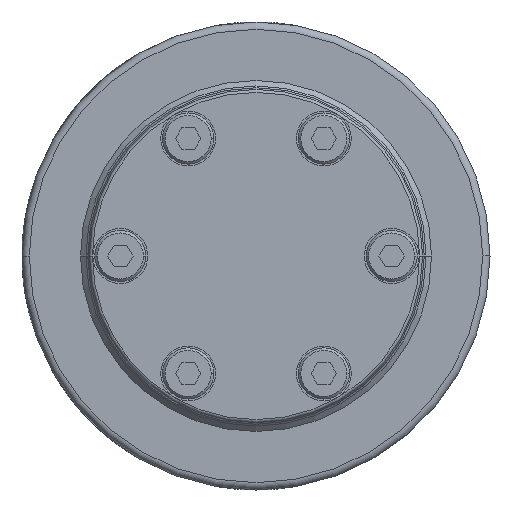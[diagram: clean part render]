
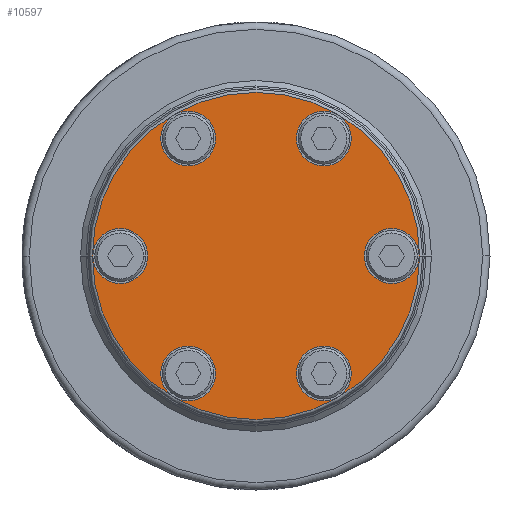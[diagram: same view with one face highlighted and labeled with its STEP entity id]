
A CAD part, left-side view. The second image highlights one B-rep face of the part: STEP entity #10597.
In plain terms, the highlighted planar face has unit normal (-1, 0, 0) as drawn and (0, 1, 0) by its records, which use the part's own axes.
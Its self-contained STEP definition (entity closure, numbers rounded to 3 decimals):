
#9828=CARTESIAN_POINT('',(0.,25.,0.));
#9829=DIRECTION('',(0.,1.,0.));
#9830=DIRECTION('',(1.,0.,0.));
#9831=AXIS2_PLACEMENT_3D('',#9828,#9829,#9830);
#9833=CARTESIAN_POINT('',(0.,25.,0.));
#9834=DIRECTION('',(0.,1.,0.));
#9835=DIRECTION('',(-1.,0.,0.));
#9836=AXIS2_PLACEMENT_3D('',#9833,#9834,#9835);
#9838=CARTESIAN_POINT('',(18.563,25.,0.));
#9839=DIRECTION('',(0.,-1.,0.));
#9840=DIRECTION('',(1.,0.,0.));
#9841=AXIS2_PLACEMENT_3D('',#9838,#9839,#9840);
#9843=CARTESIAN_POINT('',(18.563,25.,0.));
#9844=DIRECTION('',(0.,-1.,0.));
#9845=DIRECTION('',(-1.,0.,0.));
#9846=AXIS2_PLACEMENT_3D('',#9843,#9844,#9845);
#9848=CARTESIAN_POINT('',(9.281,25.,-16.076));
#9849=DIRECTION('',(0.,-1.,0.));
#9850=DIRECTION('',(0.5,0.,-0.866));
#9851=AXIS2_PLACEMENT_3D('',#9848,#9849,#9850);
#9853=CARTESIAN_POINT('',(9.281,25.,-16.076));
#9854=DIRECTION('',(0.,-1.,0.));
#9855=DIRECTION('',(-0.5,0.,0.866));
#9856=AXIS2_PLACEMENT_3D('',#9853,#9854,#9855);
#9858=CARTESIAN_POINT('',(-9.281,25.,-16.076));
#9859=DIRECTION('',(0.,-1.,0.));
#9860=DIRECTION('',(-0.5,0.,-0.866));
#9861=AXIS2_PLACEMENT_3D('',#9858,#9859,#9860);
#9863=CARTESIAN_POINT('',(-9.281,25.,-16.076));
#9864=DIRECTION('',(0.,-1.,0.));
#9865=DIRECTION('',(0.5,0.,0.866));
#9866=AXIS2_PLACEMENT_3D('',#9863,#9864,#9865);
#9868=CARTESIAN_POINT('',(-18.563,25.,0.));
#9869=DIRECTION('',(0.,-1.,0.));
#9870=DIRECTION('',(-1.,0.,0.));
#9871=AXIS2_PLACEMENT_3D('',#9868,#9869,#9870);
#9873=CARTESIAN_POINT('',(-18.563,25.,0.));
#9874=DIRECTION('',(0.,-1.,0.));
#9875=DIRECTION('',(1.,0.,0.));
#9876=AXIS2_PLACEMENT_3D('',#9873,#9874,#9875);
#9878=CARTESIAN_POINT('',(-9.281,25.,16.076));
#9879=DIRECTION('',(0.,-1.,0.));
#9880=DIRECTION('',(-0.5,0.,0.866));
#9881=AXIS2_PLACEMENT_3D('',#9878,#9879,#9880);
#9883=CARTESIAN_POINT('',(-9.281,25.,16.076));
#9884=DIRECTION('',(0.,-1.,0.));
#9885=DIRECTION('',(0.5,0.,-0.866));
#9886=AXIS2_PLACEMENT_3D('',#9883,#9884,#9885);
#9888=CARTESIAN_POINT('',(9.281,25.,16.076));
#9889=DIRECTION('',(0.,-1.,0.));
#9890=DIRECTION('',(0.5,0.,0.866));
#9891=AXIS2_PLACEMENT_3D('',#9888,#9889,#9890);
#9893=CARTESIAN_POINT('',(9.281,25.,16.076));
#9894=DIRECTION('',(0.,-1.,0.));
#9895=DIRECTION('',(-0.5,0.,-0.866));
#9896=AXIS2_PLACEMENT_3D('',#9893,#9894,#9895);
#10169=CARTESIAN_POINT('',(22.375,25.,0.));
#10170=CARTESIAN_POINT('',(-22.375,25.,0.));
#10171=VERTEX_POINT('',#10169);
#10172=VERTEX_POINT('',#10170);
#10185=CARTESIAN_POINT('',(22.313,25.,0.));
#10186=CARTESIAN_POINT('',(14.813,25.,0.));
#10187=VERTEX_POINT('',#10185);
#10188=VERTEX_POINT('',#10186);
#10197=CARTESIAN_POINT('',(11.156,25.,-19.323));
#10198=VERTEX_POINT('',#10197);
#10199=CARTESIAN_POINT('',(7.406,25.,-12.828));
#10200=VERTEX_POINT('',#10199);
#10205=CARTESIAN_POINT('',(-11.156,25.,-19.323));
#10206=VERTEX_POINT('',#10205);
#10207=CARTESIAN_POINT('',(-7.406,25.,-12.828));
#10208=VERTEX_POINT('',#10207);
#10213=CARTESIAN_POINT('',(-22.313,25.,0.));
#10214=VERTEX_POINT('',#10213);
#10215=CARTESIAN_POINT('',(-14.813,25.,0.));
#10216=VERTEX_POINT('',#10215);
#10221=CARTESIAN_POINT('',(-11.156,25.,19.323));
#10222=VERTEX_POINT('',#10221);
#10223=CARTESIAN_POINT('',(-7.406,25.,12.828));
#10224=VERTEX_POINT('',#10223);
#10229=CARTESIAN_POINT('',(11.156,25.,19.323));
#10230=VERTEX_POINT('',#10229);
#10231=CARTESIAN_POINT('',(7.406,25.,12.828));
#10232=VERTEX_POINT('',#10231);
#10551=CARTESIAN_POINT('',(0.,25.,0.));
#10552=DIRECTION('',(0.,1.,0.));
#10553=DIRECTION('',(1.,0.,0.));
#10554=AXIS2_PLACEMENT_3D('',#10551,#10552,#10553);
#10555=PLANE('',#10554);
#10556=ORIENTED_EDGE('',*,*,#10541,.F.);
#10558=ORIENTED_EDGE('',*,*,#10557,.F.);
#10559=EDGE_LOOP('',(#10556,#10558));
#10560=FACE_OUTER_BOUND('',#10559,.F.);
#10562=ORIENTED_EDGE('',*,*,#10561,.F.);
#10564=ORIENTED_EDGE('',*,*,#10563,.F.);
#10565=EDGE_LOOP('',(#10562,#10564));
#10566=FACE_BOUND('',#10565,.F.);
#10568=ORIENTED_EDGE('',*,*,#10567,.F.);
#10570=ORIENTED_EDGE('',*,*,#10569,.F.);
#10571=EDGE_LOOP('',(#10568,#10570));
#10572=FACE_BOUND('',#10571,.F.);
#10574=ORIENTED_EDGE('',*,*,#10573,.F.);
#10576=ORIENTED_EDGE('',*,*,#10575,.F.);
#10577=EDGE_LOOP('',(#10574,#10576));
#10578=FACE_BOUND('',#10577,.F.);
#10580=ORIENTED_EDGE('',*,*,#10579,.F.);
#10582=ORIENTED_EDGE('',*,*,#10581,.F.);
#10583=EDGE_LOOP('',(#10580,#10582));
#10584=FACE_BOUND('',#10583,.F.);
#10586=ORIENTED_EDGE('',*,*,#10585,.F.);
#10588=ORIENTED_EDGE('',*,*,#10587,.F.);
#10589=EDGE_LOOP('',(#10586,#10588));
#10590=FACE_BOUND('',#10589,.F.);
#10592=ORIENTED_EDGE('',*,*,#10591,.F.);
#10594=ORIENTED_EDGE('',*,*,#10593,.F.);
#10595=EDGE_LOOP('',(#10592,#10594));
#10596=FACE_BOUND('',#10595,.F.);
#10597=ADVANCED_FACE('',(#10560,#10566,#10572,#10578,#10584,#10590,#10596),
#10555,.T.);
#9832=CIRCLE('',#9831,22.375);
#9837=CIRCLE('',#9836,22.375);
#9842=CIRCLE('',#9841,3.75);
#9847=CIRCLE('',#9846,3.75);
#9852=CIRCLE('',#9851,3.75);
#9857=CIRCLE('',#9856,3.75);
#9862=CIRCLE('',#9861,3.75);
#9867=CIRCLE('',#9866,3.75);
#9872=CIRCLE('',#9871,3.75);
#9877=CIRCLE('',#9876,3.75);
#9882=CIRCLE('',#9881,3.75);
#9887=CIRCLE('',#9886,3.75);
#9892=CIRCLE('',#9891,3.75);
#9897=CIRCLE('',#9896,3.75);
#10541=EDGE_CURVE('',#10171,#10172,#9832,.T.);
#10557=EDGE_CURVE('',#10172,#10171,#9837,.T.);
#10561=EDGE_CURVE('',#10187,#10188,#9842,.T.);
#10563=EDGE_CURVE('',#10188,#10187,#9847,.T.);
#10567=EDGE_CURVE('',#10198,#10200,#9852,.T.);
#10569=EDGE_CURVE('',#10200,#10198,#9857,.T.);
#10573=EDGE_CURVE('',#10206,#10208,#9862,.T.);
#10575=EDGE_CURVE('',#10208,#10206,#9867,.T.);
#10579=EDGE_CURVE('',#10214,#10216,#9872,.T.);
#10581=EDGE_CURVE('',#10216,#10214,#9877,.T.);
#10585=EDGE_CURVE('',#10222,#10224,#9882,.T.);
#10587=EDGE_CURVE('',#10224,#10222,#9887,.T.);
#10591=EDGE_CURVE('',#10230,#10232,#9892,.T.);
#10593=EDGE_CURVE('',#10232,#10230,#9897,.T.);
